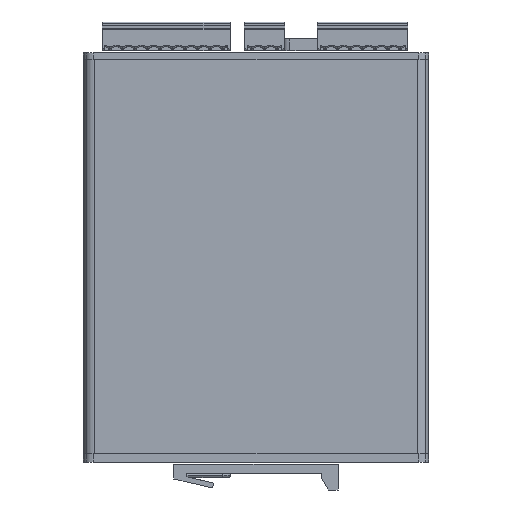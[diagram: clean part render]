
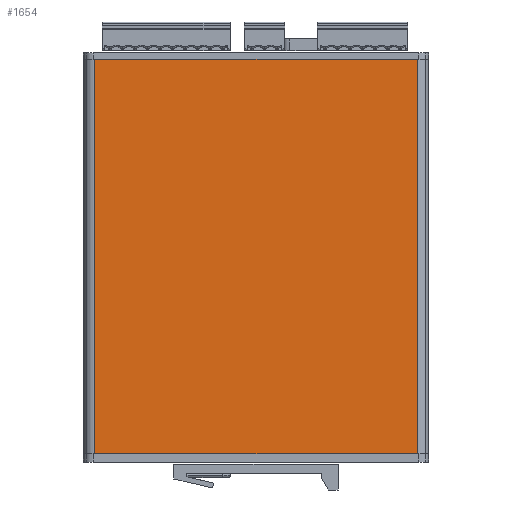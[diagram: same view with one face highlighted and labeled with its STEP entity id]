
A CAD part, left-side view. The second image highlights one B-rep face of the part: STEP entity #1654.
In plain terms, the highlighted planar face has unit normal (-1, 0, 0).
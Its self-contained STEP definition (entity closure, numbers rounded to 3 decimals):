
#1654=ADVANCED_FACE('',(#3802),#3803,.T.);
#3802=FACE_OUTER_BOUND('',#6505,.T.);
#3803=PLANE('',#6506);
#6505=EDGE_LOOP('',(#11136,#11137,#11138,#11139));
#6506=AXIS2_PLACEMENT_3D('',#11140,#11141,#11142);
#11136=ORIENTED_EDGE('',*,*,#16737,.F.);
#11137=ORIENTED_EDGE('',*,*,#16738,.T.);
#11138=ORIENTED_EDGE('',*,*,#16667,.F.);
#11139=ORIENTED_EDGE('',*,*,#16724,.F.);
#11140=CARTESIAN_POINT('',(-29.65,195.5,-170.0));
#11141=DIRECTION('',(-1.0,0.0,0.0));
#11142=DIRECTION('',(0.0,0.0,1.0));
#16667=EDGE_CURVE('',#20094,#20096,#20097,.T.);
#16724=EDGE_CURVE('',#20182,#20094,#20184,.T.);
#16737=EDGE_CURVE('',#20197,#20182,#20198,.T.);
#16738=EDGE_CURVE('',#20197,#20096,#20199,.T.);
#20094=VERTEX_POINT('',#27315);
#20096=VERTEX_POINT('',#27317);
#20097=LINE('',#27318,#27319);
#20182=VERTEX_POINT('',#27431);
#20184=LINE('',#27434,#27435);
#20197=VERTEX_POINT('',#27449);
#20198=LINE('',#27450,#27451);
#20199=LINE('',#27452,#27453);
#27315=CARTESIAN_POINT('',(-29.65,94.0,-170.0));
#27317=CARTESIAN_POINT('',(-29.65,94.0,-290.0));
#27318=CARTESIAN_POINT('',(-29.65,94.0,-170.0));
#27319=VECTOR('',#33764,120.0);
#27431=CARTESIAN_POINT('',(-29.65,192.0,-170.0));
#27434=CARTESIAN_POINT('',(-29.65,192.0,-170.0));
#27435=VECTOR('',#33841,98.0);
#27449=CARTESIAN_POINT('',(-29.65,192.0,-290.0));
#27450=CARTESIAN_POINT('',(-29.65,192.0,-290.0));
#27451=VECTOR('',#33858,120.0);
#27452=CARTESIAN_POINT('',(-29.65,192.0,-290.0));
#27453=VECTOR('',#33859,98.0);
#33764=DIRECTION('',(0.0,0.0,-1.0));
#33841=DIRECTION('',(0.0,-1.0,0.0));
#33858=DIRECTION('',(0.0,0.0,1.0));
#33859=DIRECTION('',(0.0,-1.0,0.0));
